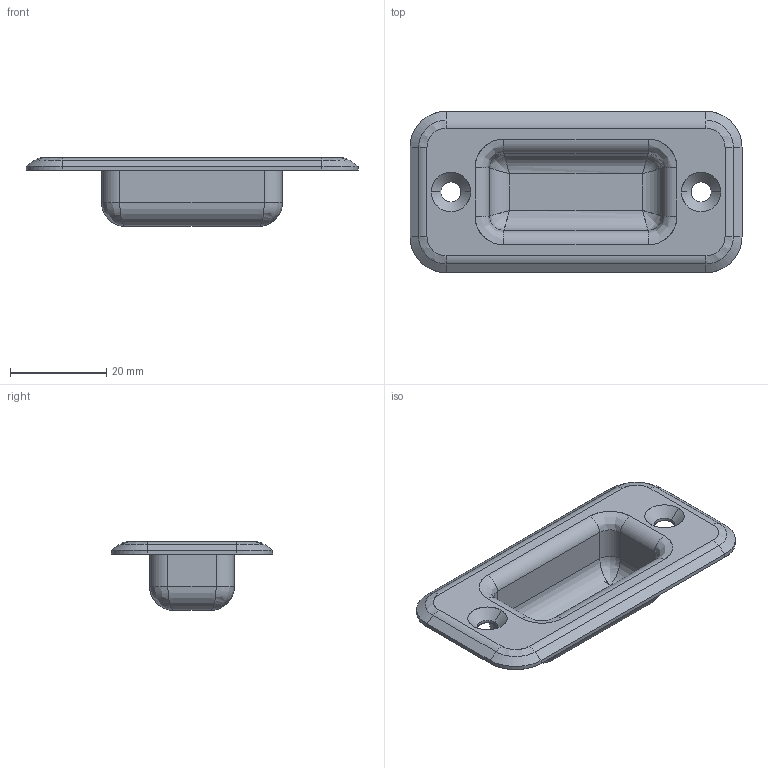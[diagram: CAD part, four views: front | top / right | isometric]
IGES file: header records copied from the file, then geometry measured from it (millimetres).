
Start section: SolidWorks IGES file using analytic representation for surfaces
Bounding box: 69 x 33.5 x 14.3 mm (x, y, z)
Surface area: 7051.2 mm2 (no closed solid volume)
Topology: 0 solids, 0 shells, 119 faces, 1008 edges, 1000 vertices
Faces by surface type: revolution 64, bspline 55
